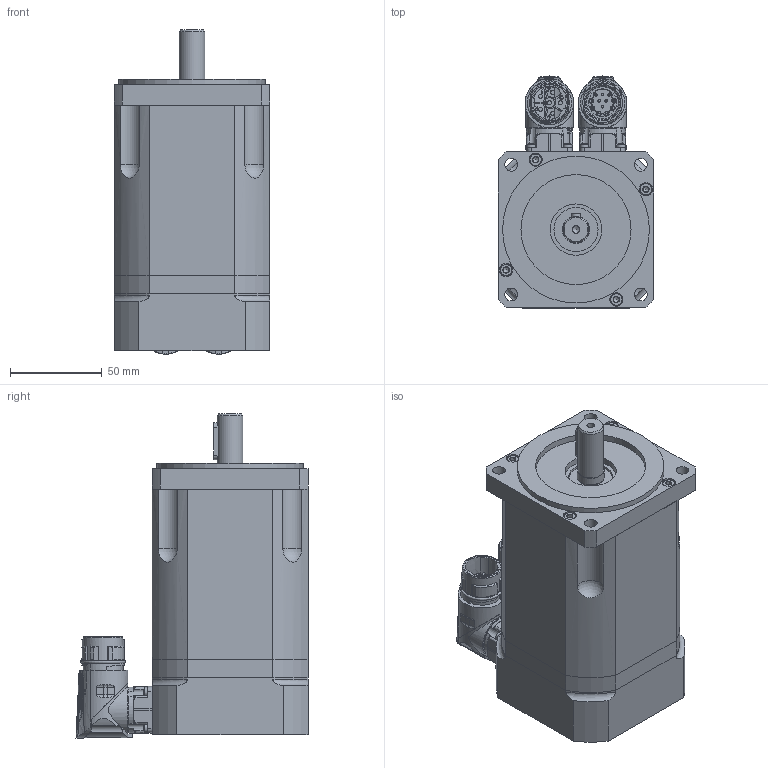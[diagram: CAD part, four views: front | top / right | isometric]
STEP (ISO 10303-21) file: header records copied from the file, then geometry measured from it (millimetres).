
FILE_DESCRIPTION(/* description */ (''),/* implementation_level */ '2;1');
FILE_NAME(/* name */ 'C:\Users\Public\Documents\Autodesk\Inventor LT 2014\Workspace\Motori Sito WEB\TG_3\STEP_DSM5_3x\DSM5_32_x097.stp',/* time_stamp */ '2021-03-31T14:11:11+02:00',/* author */ ('marcor'),/* organization */ (''),/* preprocessor_version */ 'ST-DEVELOPER v15.2',/* originating_system */ 'Autodesk Inventor LT ',/* authorisation */ '');
FILE_SCHEMA (('AUTOMOTIVE_DESIGN { 1 0 10303 214 3 1 1 }'));
Products named in the file (1): DSM5_32_x097
Bounding box: 85 x 126.5 x 176.81 mm (x, y, z)
Volume: 1033877.7 mm3; surface area: 130540.5 mm2
Topology: 16 solids, 26 shells, 1426 faces, 3697 edges, 2459 vertices
Faces by surface type: plane 523, cylinder 436, cone 247, bspline 113, torus 75, sphere 32
Full cylindrical faces by diameter (mm): 1.2 x12, 2.224 x8, 2.233 x6, 2.5 x8, 2.88 x8, 3.242 x12, 3.26 x8, 4 x12, 4.134 x1, 4.5 x14, 4.8 x8, 5.5 x3, 5.9 x2, 7 x16, 7.2 x8, 7.5 x4, 13.8 x1, 14 x1, 14.98 x1, 15.2 x1, 17.4 x3, 18 x1, 19.8 x1, 21.15 x4, 21.6 x1, 21.653 x2, 24 x1, 24.3 x2, 28 x1, 35 x2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
Entity records: 50570 total; most frequent: CARTESIAN_POINT 17558, ORIENTED_EDGE 6526, DIRECTION 6079, EDGE_CURVE 3263, AXIS2_PLACEMENT_3D 2496, VERTEX_POINT 2349, EDGE_LOOP 1944, ADVANCED_FACE 1426
